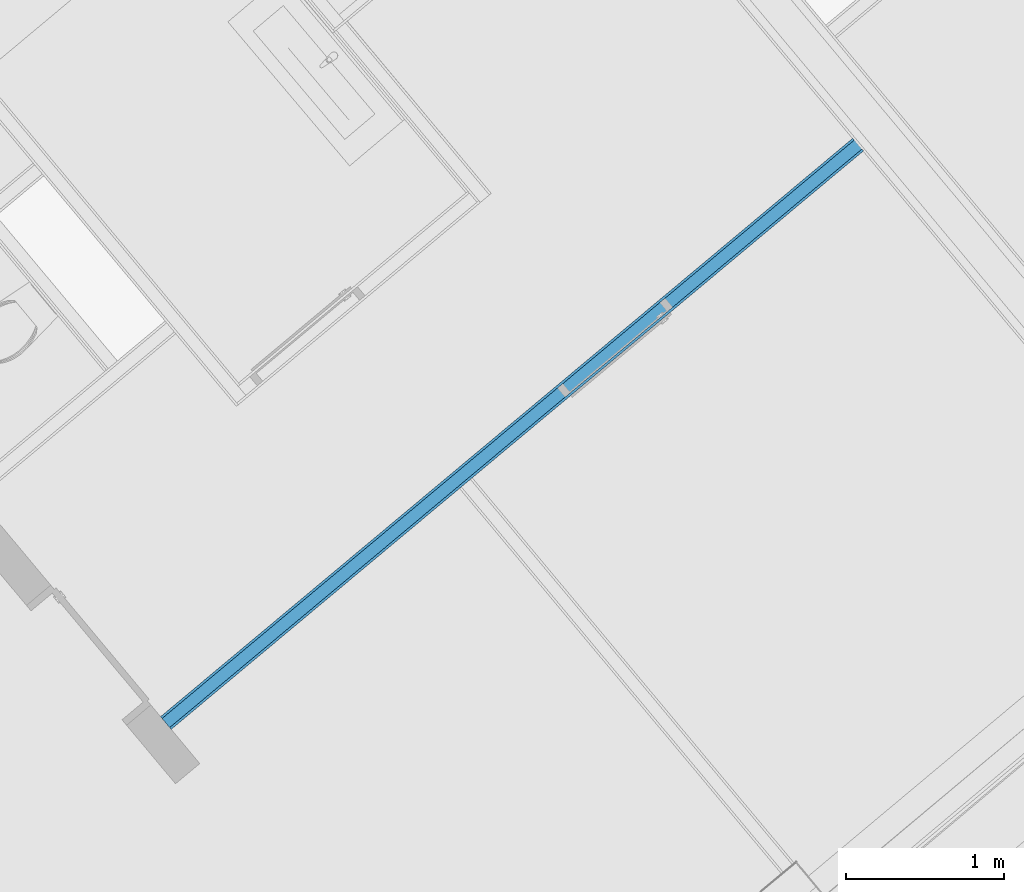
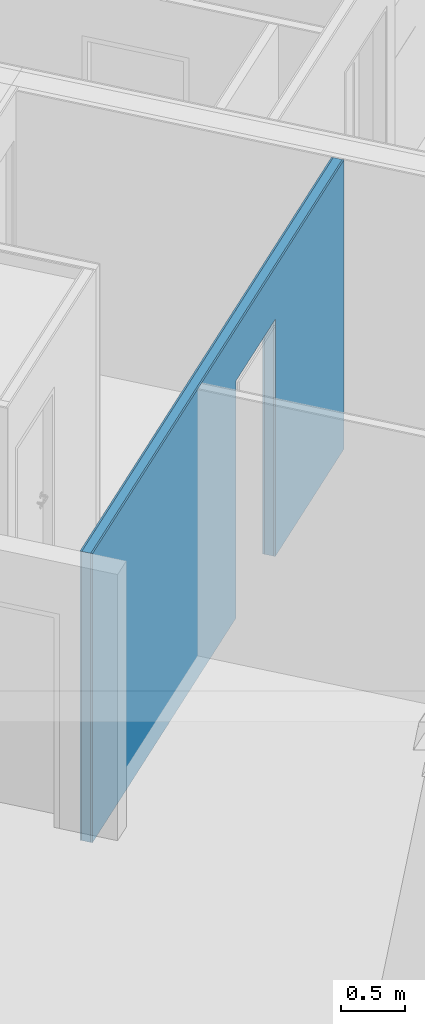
# One storey, part 5 of 58: 3 building element parts, 1 opening, 1 element without a shape of its own.
"""IFC4 building model written with IfcOpenShell, lengths in metres."""

import ifcopenshell
import ifcopenshell.guid

model = None  # the IFC model being written
_history = None  # IfcOwnerHistory: only IFC2X3 demands one
_inside = {}  # id of a spatial element -> (the spatial element, [elements in it])
_under = {}  # id of a project, library or spatial element -> (it, [spatial elements below it])
_declared = {}  # id of a project -> (the project, [libraries it declares])
_typed = {}  # id of a type object -> (the type object, [elements of that type])
_made_of = {}  # id of a material, layer set ... -> (it, [elements and type objects made of it])


def new_model(schema):
    """Start an empty IFC model of exactly this schema.

    Asked for "IFC4X3", IfcOpenShell would pick the latest addendum, in which some entities
    have other attributes; the version numbers below select the first issue.
    IFC2X3 requires an IfcOwnerHistory on every rooted entity: one is made here for all.
    """
    global model, _history
    if schema == "IFC4X3":
        model = ifcopenshell.file(schema_version=(4, 3, 0, 0))
    else:
        model = ifcopenshell.file(schema=schema)
    _inside.clear()
    _under.clear()
    _declared.clear()
    _typed.clear()
    _made_of.clear()
    _history = None
    if model.schema == "IFC2X3":
        org = make("IfcOrganization", Name="unknown")
        user = make(
            "IfcPersonAndOrganization",
            ThePerson=make("IfcPerson", FamilyName="unknown"),
            TheOrganization=org,
        )
        app = make(
            "IfcApplication",
            ApplicationDeveloper=org,
            Version="unknown",
            ApplicationFullName="unknown",
            ApplicationIdentifier="unknown",
        )
        _history = make(
            "IfcOwnerHistory",
            OwningUser=user,
            OwningApplication=app,
            ChangeAction="ADDED",
            CreationDate=0,
        )
    return model


def make(cls, **values):
    """One entity of the class cls with the attributes given. An attribute that is None is left unset."""
    return model.create_entity(
        cls, **{name: value for name, value in values.items() if value is not None}
    )


def entity(cls, *values):
    """Any entity or typed value of the class cls, its attributes in the order of the schema. None: left unset."""
    e = model.create_entity(cls)
    for i, value in enumerate(values):
        if value is not None:
            e[i] = value
    return e


def rooted(cls, **values):
    """An entity with a GlobalId (a new one), such as an element, a storey or a relation."""
    return make(cls, GlobalId=ifcopenshell.guid.new(), OwnerHistory=_history, **values)


def si_unit(unit_type, name, prefix=None):
    """IfcSIUnit, for example si_unit("LENGTHUNIT", "METRE", prefix="MILLI")."""
    return make("IfcSIUnit", UnitType=unit_type, Prefix=prefix, Name=name)


def converted_unit(unit_type, name, factor, base, dimensions=None, offset=None):
    """IfcConversionBasedUnit, such as the inch: factor (a typed value) times the base unit."""
    return make(
        "IfcConversionBasedUnit"
        if offset is None
        else "IfcConversionBasedUnitWithOffset",
        ConversionOffset=offset,
        Dimensions=None
        if dimensions is None
        else entity("IfcDimensionalExponents", *dimensions),
        UnitType=unit_type,
        Name=name,
        ConversionFactor=make(
            "IfcMeasureWithUnit", ValueComponent=factor, UnitComponent=base
        ),
    )


def derived_unit(unit_type, elements):
    """IfcDerivedUnit: a product of units, each with its exponent."""
    return make(
        "IfcDerivedUnit",
        Elements=[
            make("IfcDerivedUnitElement", Unit=unit, Exponent=power)
            for unit, power in elements
        ],
        UnitType=unit_type,
    )


def assignment(units):
    """IfcUnitAssignment: the units of a project."""
    return None if units is None else make("IfcUnitAssignment", Units=units)


def point(xyz):
    """IfcCartesianPoint."""
    return None if xyz is None else make("IfcCartesianPoint", Coordinates=xyz)


def direction(xyz):
    """IfcDirection."""
    return None if xyz is None else make("IfcDirection", DirectionRatios=xyz)


def frame(location, z_axis=None, x_axis=None):
    """IfcAxis2Placement3D, a coordinate frame: its origin and axes. An axis left out is left unset."""
    return make(
        "IfcAxis2Placement3D",
        Location=point(location),
        Axis=direction(z_axis),
        RefDirection=direction(x_axis),
    )


def origin_with_axes():
    """The frame at (0, 0, 0) with the z axis (0, 0, 1) and the x axis (1, 0, 0) written out."""
    return frame((0.0, 0.0, 0.0), z_axis=(0.0, 0.0, 1.0), x_axis=(1.0, 0.0, 0.0))


def place(relative_to, where):
    """IfcLocalPlacement: puts the frame where relative to a parent placement (None: the world)."""
    return make(
        "IfcLocalPlacement", PlacementRelTo=relative_to, RelativePlacement=where
    )


def context(
    kind, dimensions, precision=None, world=None, true_north=None, identifier=None
):
    """IfcGeometricRepresentationContext, for example the 3D "Model" context."""
    return make(
        "IfcGeometricRepresentationContext",
        ContextIdentifier=identifier,
        ContextType=kind,
        CoordinateSpaceDimension=dimensions,
        Precision=precision,
        WorldCoordinateSystem=world,
        TrueNorth=true_north,
    )


def subcontext(parent, identifier, kind, view, scale=None):
    """IfcGeometricRepresentationSubContext, for example "Body" below "Model"."""
    return make(
        "IfcGeometricRepresentationSubContext",
        ContextIdentifier=identifier,
        ContextType=kind,
        ParentContext=parent,
        TargetScale=scale,
        TargetView=view,
    )


def project(units=None, contexts=None):
    """IfcProject with its units and contexts."""
    return rooted(
        "IfcProject",
        Name="project",
        RepresentationContexts=contexts,
        UnitsInContext=assignment(units),
    )


def spatial(cls, under=None, at=None, **own):
    """A site, building, storey or space (cls), placed at a placement, below another one or the project."""
    s = rooted(cls, ObjectPlacement=at, **own)
    if under is not None:
        _under.setdefault(under.id(), (under, []))[1].append(s)
    return s


def point_list(points):
    """IfcCartesianPointList2D or 3D."""
    cls = (
        "IfcCartesianPointList2D" if len(points[0]) == 2 else "IfcCartesianPointList3D"
    )
    return make(cls, CoordList=points)


def polygons(points, faces, closed=None, point_numbers=None):
    """IfcPolygonalFaceSet: a face is its outer loop, then its inner loops; points numbered from 1."""
    made = []
    for loops in faces:
        if len(loops) == 1:
            made.append(make("IfcIndexedPolygonalFace", CoordIndex=loops[0]))
        else:
            made.append(
                make(
                    "IfcIndexedPolygonalFaceWithVoids",
                    CoordIndex=loops[0],
                    InnerCoordIndices=loops[1:],
                )
            )
    return make(
        "IfcPolygonalFaceSet",
        Coordinates=point_list(points),
        Closed=closed,
        Faces=made,
        PnIndex=point_numbers,
    )


def shape(context_of_items, identifier, shape_type, items):
    """IfcShapeRepresentation: the items that make up one representation, for example the "Body"."""
    return make(
        "IfcShapeRepresentation",
        ContextOfItems=context_of_items,
        RepresentationIdentifier=identifier,
        RepresentationType=shape_type,
        Items=items,
    )


def material(Name=None, Category=None):
    """IfcMaterial."""
    return make("IfcMaterial", Name=Name, Category=Category)


def made_of(thing, what):
    """Note that an element or type object is made of a material, layer set ...; save() writes the relation."""
    if what is not None:
        _made_of.setdefault(what.id(), (what, []))[1].append(thing)
    return thing


def type_object(cls, material=None, **own):
    """A type object (cls), such as IfcWallType, which elements share."""
    return made_of(rooted(cls, **own), material)


def element(
    cls,
    number,
    at=None,
    inside=None,
    cuts=None,
    type_object=None,
    material=None,
    context=None,
    identifier="Body",
    shape_type=None,
    held_by="IfcProductDefinitionShape",
    body=None,
    shapes=None,
    **own,
):
    """One element of the class cls, such as IfcWall. Its Tag is "e" and its number.

    at: its placement. inside: the storey or other place that contains it. cuts: it is an
    opening in that element (IfcRelVoidsElement). A single representation is given by context,
    identifier, shape_type and body (its items); several are given by shapes. held_by: the class
    of the entity that holds the representations. save() writes the other relations.
    """
    e = rooted(cls, Tag="e%d" % number, ObjectPlacement=at, **own)
    if body is not None:
        shapes = [shape(context, identifier, shape_type, body)]
    if shapes is not None:
        e.Representation = make(held_by, Representations=shapes)
    if inside is not None:
        _inside.setdefault(inside.id(), (inside, []))[1].append(e)
    if cuts is not None:
        rooted(
            "IfcRelVoidsElement", RelatingBuildingElement=cuts, RelatedOpeningElement=e
        )
    if type_object is not None:
        _typed.setdefault(type_object.id(), (type_object, []))[1].append(e)
    return made_of(e, material)


def aggregate(whole, parts):
    """IfcRelAggregates: a whole, such as a stair, and the parts it consists of."""
    return rooted("IfcRelAggregates", RelatingObject=whole, RelatedObjects=parts)


def save(model, path):
    """Write the relations noted so far, then the file.

    IfcRelAggregates (storeys below a building ...), IfcRelContainedInSpatialStructure (elements
    in a storey), IfcRelDefinesByType, IfcRelAssociatesMaterial and IfcRelDeclares: one each for
    every whole, place, type object, material and project.
    """
    for whole, parts in _under.values():
        aggregate(whole, parts)
    for where, things in _inside.values():
        rooted(
            "IfcRelContainedInSpatialStructure",
            RelatedElements=things,
            RelatingStructure=where,
        )
    for kind, things in _typed.values():
        rooted("IfcRelDefinesByType", RelatedObjects=things, RelatingType=kind)
    for what, things in _made_of.values():
        rooted("IfcRelAssociatesMaterial", RelatedObjects=things, RelatingMaterial=what)
    for by, libraries in _declared.values():
        rooted("IfcRelDeclares", RelatingContext=by, RelatedDefinitions=libraries)
    model.write(path)


model = new_model("IFC4")

# Units and contexts
model_context = context("Model", 3, precision=1e-05, world=origin_with_axes(), true_north=direction((0.0, 1.0)))
body_context = subcontext(model_context, "Body", "Model", "MODEL_VIEW")
ifc_project = project(units=[si_unit("LENGTHUNIT", "METRE"), si_unit("AREAUNIT", "SQUARE_METRE"), si_unit("VOLUMEUNIT", "CUBIC_METRE"), converted_unit("PLANEANGLEUNIT", "DEGREE", entity("IfcPlaneAngleMeasure", 0.0174532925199), si_unit("PLANEANGLEUNIT", "RADIAN"), dimensions=[0, 0, 0, 0, 0, 0, 0]), converted_unit("TIMEUNIT", "Year", entity("IfcTimeMeasure", 31556926.0), si_unit("TIMEUNIT", "SECOND"), dimensions=[0, 0, 1, 0, 0, 0, 0]), si_unit("MASSUNIT", "GRAM", prefix="KILO"), si_unit("THERMODYNAMICTEMPERATUREUNIT", "DEGREE_CELSIUS"), si_unit("LUMINOUSINTENSITYUNIT", "LUMEN"), si_unit("ENERGYUNIT", "JOULE", prefix="MEGA"), derived_unit("THERMALCONDUCTANCEUNIT", [(si_unit("POWERUNIT", "WATT"), 1), (si_unit("LENGTHUNIT", "METRE"), -1), (si_unit("THERMODYNAMICTEMPERATUREUNIT", "KELVIN"), -1)]), derived_unit("SPECIFICHEATCAPACITYUNIT", [(si_unit("ENERGYUNIT", "JOULE"), 1), (si_unit("MASSUNIT", "GRAM", prefix="KILO"), -1), (si_unit("THERMODYNAMICTEMPERATUREUNIT", "KELVIN"), -1)]), derived_unit("MASSDENSITYUNIT", [(si_unit("MASSUNIT", "GRAM", prefix="KILO"), 1), (si_unit("VOLUMEUNIT", "CUBIC_METRE"), -1)])], contexts=[model_context])

# Site, building, storey
site_placement = place(None, frame((-0.00153261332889, -0.00661245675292, 0.0), z_axis=(0.0, 0.0, 1.0), x_axis=(1.0, 0.0, 0.0)))
site = spatial("IfcSite", under=ifc_project, at=site_placement, Name="Site", CompositionType="ELEMENT")
building_placement = place(site_placement, origin_with_axes())
building = spatial("IfcBuilding", under=site, at=building_placement, Name="Building", CompositionType="ELEMENT")
storey_placement = place(building_placement, frame((0.0, 0.0, 5.7), z_axis=(0.0, 0.0, 1.0), x_axis=(1.0, 0.0, 0.0)))
storey = spatial("IfcBuildingStorey", under=building, at=storey_placement, Name="DG1", CompositionType="ELEMENT", Elevation=5.7)

# Wall, opening, building element parts
wall_type = type_object("IfcWallType", Name="IW LB 01 Leichtbautrennwand einfach 10,5 cm 105", PredefinedType="NOTDEFINED")
wall_placement = place(storey_placement, frame((4.97970004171, 20.0468560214, 0.0), z_axis=(0.0, 0.0, 1.0), x_axis=(-0.767366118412, -0.641209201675, 0.0)))
wall = element("IfcWall", 1, at=wall_placement, inside=storey, type_object=wall_type, Name="Wand-012", PredefinedType="NOTDEFINED")
opening_placement = place(wall_placement, frame((2.00804123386, 0.0, 0.22), z_axis=(0.0, 0.0, 1.0), x_axis=(1.0, 0.0, 0.0)))
element("IfcOpeningElement", 2, at=opening_placement, cuts=wall, Name="Tür-016", context=body_context, identifier="Reference", shape_type="Tessellation", body=[
    polygons([(-0.445, -2.92011535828, 2.045), (-0.445, -2.92011535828, -0.22), (0.445, -2.92011535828, -0.22), (0.445, -2.92011535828, 2.045), (-0.445, 2.81511535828, 2.045), (-0.445, 2.81511535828, -0.22), (0.445, 2.81511535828, -0.22), (0.445, 2.81511535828, 2.045)], [[[1, 2, 3, 4]], [[5, 6, 2, 1]], [[6, 7, 3, 2]], [[7, 8, 4, 3]], [[8, 5, 1, 4]], [[7, 6, 5, 8]]], closed=True),
])
ifc_material_1 = material(Name="Gipskarton")
building_element_part_1_placement = place(wall_placement, origin_with_axes())
building_element_part_1 = element("IfcBuildingElementPart", 3, at=building_element_part_1_placement, material=ifc_material_1, Name="Gipskarton", PredefinedType="NOTDEFINED", context=body_context, shape_type="Tessellation", body=[
    polygons([(2.45304123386, -1.35229713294e-06, 0.22), (2.45304123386, -1.70548753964e-06, 2.265), (1.56304123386, -1.70548754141e-06, 2.265), (1.56304123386, -1.70548754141e-06, 0.22), (1.56304123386, -1.70548754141e-06, 0.0), (0.0, 0.0, 0.0), (0.0, 0.0, 2.76), (5.71925592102, 0.0, 2.76), (5.71925592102, 0.0, 0.0), (2.45304123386, -1.35229712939e-06, 0.0), (2.45304123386, -0.015, 0.22), (2.45304123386, -0.015, 2.265), (1.56304123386, -0.015, 2.265), (1.56304123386, -0.015, 0.22), (1.56304123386, -0.015, 0.0), (0.0, -0.015, 0.0), (0.0, -0.015, 2.76), (5.71925592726, -0.015, 2.76), (5.71925592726, -0.015, 0.0), (2.45304123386, -0.015, 0.0)], [[[1, 2, 3, 4, 5, 6, 7, 8, 9, 10]], [[2, 1, 11, 12]], [[3, 2, 12, 13]], [[4, 3, 13, 14]], [[4, 14, 15, 5]], [[15, 16, 6, 5]], [[17, 7, 6, 16]], [[8, 7, 17, 18]], [[18, 19, 9, 8]], [[10, 9, 19, 20]], [[11, 1, 10, 20]], [[12, 11, 20, 19, 18, 17, 16, 15, 14, 13]]], closed=True),
])
ifc_material_2 = material(Name="Mineralwolle weich")
building_element_part_2_placement = place(wall_placement, origin_with_axes())
building_element_part_2 = element("IfcBuildingElementPart", 4, at=building_element_part_2_placement, material=ifc_material_2, Name="Mineralwolle weich", PredefinedType="NOTDEFINED", context=body_context, shape_type="Tessellation", body=[
    polygons([(2.45304123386, -0.015, 0.22), (2.45304123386, -0.015, 2.265), (1.56304123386, -0.015, 2.265), (1.56304123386, -0.015, 0.22), (1.56304123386, -0.015, 0.0), (0.0, -0.015, 0.0), (0.0, -0.015, 2.76), (5.71925592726, -0.015, 2.76), (5.71925592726, -0.015, 0.0), (2.45304123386, -0.015, 0.0), (2.45304123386, -0.09, 0.22), (2.45304123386, -0.09, 2.265), (1.56304123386, -0.09, 2.265), (1.56304123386, -0.09, 0.22), (1.56304123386, -0.09, 0.0), (0.0, -0.09, 0.0), (0.0, -0.09, 2.76), (5.71925595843, -0.09, 2.76), (5.71925595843, -0.09, 0.0), (2.45304123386, -0.09, 0.0)], [[[1, 2, 3, 4, 5, 6, 7, 8, 9, 10]], [[2, 1, 11, 12]], [[3, 2, 12, 13]], [[4, 3, 13, 14]], [[4, 14, 15, 5]], [[15, 16, 6, 5]], [[17, 7, 6, 16]], [[8, 7, 17, 18]], [[18, 19, 9, 8]], [[10, 9, 19, 20]], [[11, 1, 10, 20]], [[12, 11, 20, 19, 18, 17, 16, 15, 14, 13]]], closed=True),
])
building_element_part_3_placement = place(wall_placement, origin_with_axes())
building_element_part_3 = element("IfcBuildingElementPart", 5, at=building_element_part_3_placement, material=ifc_material_1, Name="Gipskarton", PredefinedType="NOTDEFINED", context=body_context, shape_type="Tessellation", body=[
    polygons([(2.45304123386, -0.09, 0.22), (2.45304123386, -0.09, 2.265), (1.56304123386, -0.09, 2.265), (1.56304123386, -0.09, 0.22), (1.56304123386, -0.09, 0.0), (0.0, -0.09, 0.0), (0.0, -0.09, 2.76), (5.71925595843, -0.09, 2.76), (5.71925595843, -0.09, 0.0), (2.45304123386, -0.09, 0.0), (2.45304123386, -0.105, 0.22), (2.45304123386, -0.105, 2.265), (1.56304123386, -0.105, 2.265), (1.56304123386, -0.105, 0.22), (1.56304123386, -0.105, 0.0), (0.0, -0.105, 0.0), (0.0, -0.105, 2.76), (5.71925596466, -0.105, 2.76), (5.71925596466, -0.105, 0.0), (2.45304123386, -0.105, 0.0)], [[[1, 2, 3, 4, 5, 6, 7, 8, 9, 10]], [[2, 1, 11, 12]], [[3, 2, 12, 13]], [[4, 3, 13, 14]], [[4, 14, 15, 5]], [[15, 16, 6, 5]], [[17, 7, 6, 16]], [[8, 7, 17, 18]], [[18, 19, 9, 8]], [[10, 9, 19, 20]], [[11, 1, 10, 20]], [[12, 11, 20, 19, 18, 17, 16, 15, 14, 13]]], closed=True),
])
aggregate(wall, [building_element_part_1, building_element_part_2, building_element_part_3])

save(model, "model.ifc")
